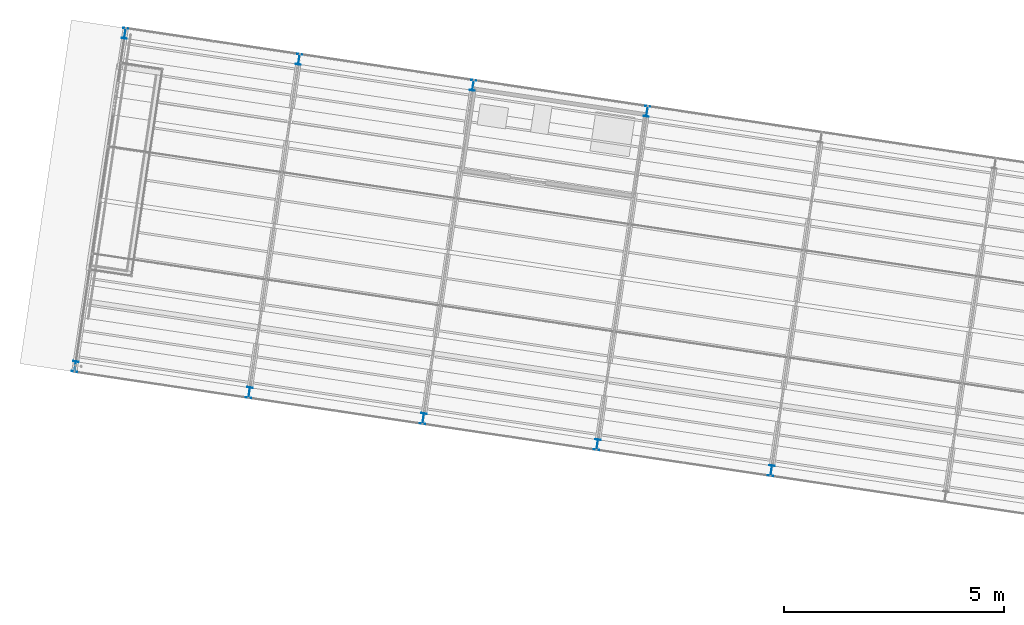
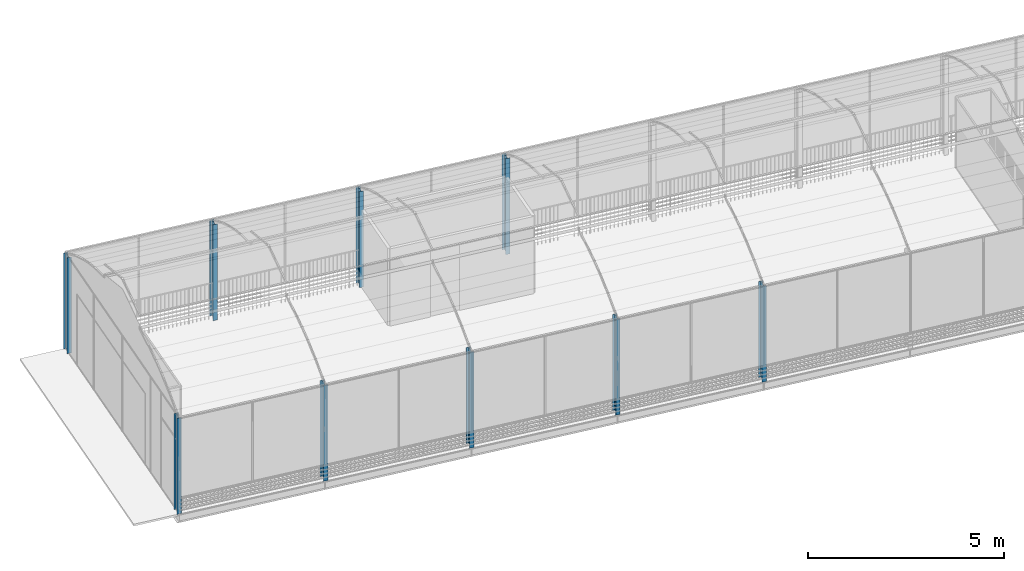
# One storey, part 1 of 34: 9 columns.
"""IFC4 building model written with IfcOpenShell, lengths in metres."""

from ifc_helpers import new_model, si_unit, direction, frame, origin_with_axes, place, context, subcontext, project, spatial, i_section, extrude, material, material_profile, profile_set, profile_usage, type_object, element, save


model = new_model("IFC4")

# Units and contexts
model_context = context("Model", 3, precision=1e-05, world=origin_with_axes(), true_north=direction((0.0, 1.0)))
body_context = subcontext(model_context, "Body", "Model", "MODEL_VIEW")
ifc_project = project(units=[si_unit("AREAUNIT", "SQUARE_METRE"), si_unit("VOLUMEUNIT", "CUBIC_METRE"), si_unit("LENGTHUNIT", "METRE")], contexts=[model_context])

# Site, building, storey
site_placement = place(None, origin_with_axes())
site = spatial("IfcSite", under=ifc_project, at=site_placement, Name="Lares · Rua das Mercês · artigo 4771")
building_placement = place(site_placement, frame((15.0, 9.7, 14.65), z_axis=(0.0, 0.0, 1.0), x_axis=(0.989015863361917, -0.147809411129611, 0.0)))
building = spatial("IfcBuilding", under=site, at=building_placement, Name="Casa Sobreposta")
storey_placement = place(building_placement, frame((0.0, 0.0, 3.24), z_axis=(0.0, 0.0, 1.0), x_axis=(1.0, 0.0, 0.0)))
storey = spatial("IfcBuildingStorey", under=building, at=storey_placement, Name="01 · Jardim de inverno", Elevation=17.89)

# Columns
ifc_material = material(Name="Aço pintado / Stahl lackiert", Category="steel")
ifc_material_profile = material_profile(ifc_material, i_section(OverallWidth=0.12, OverallDepth=0.24, WebThickness=0.0062, FlangeThickness=0.0098))
ifc_profile_set = profile_set([ifc_material_profile], Name="IPE240")
ifc_profile_usage_1 = profile_usage(ifc_profile_set)
column_type = type_object("IfcColumnType", Name="IPE240 / steel", PredefinedType="NOTDEFINED", material=ifc_profile_set)
column_1_placement = place(storey_placement, frame((0.0, -1.38, 0.0), z_axis=(0.0, 0.0, 1.0), x_axis=(1.0, 0.0, 0.0)))
element("IfcColumn", 1, at=column_1_placement, inside=storey, type_object=column_type, material=ifc_profile_usage_1, Name="Pilar estufa 1A · IPE240", context=body_context, shape_type="SweptSolid", body=[
    extrude(i_section(OverallWidth=0.12, OverallDepth=0.24, WebThickness=0.0062, FlangeThickness=0.0098), origin_with_axes(), (0.0, 0.0, 1.0), 2.98),
])
ifc_profile_usage_2 = profile_usage(ifc_profile_set)
column_2_placement = place(storey_placement, frame((0.0, 6.28, 0.0), z_axis=(0.0, 0.0, 1.0), x_axis=(1.0, 0.0, 0.0)))
element("IfcColumn", 2, at=column_2_placement, inside=storey, type_object=column_type, material=ifc_profile_usage_2, Name="Pilar estufa 1B · IPE240", context=body_context, shape_type="SweptSolid", body=[
    extrude(i_section(OverallWidth=0.12, OverallDepth=0.24, WebThickness=0.0062, FlangeThickness=0.0098), origin_with_axes(), (0.0, 0.0, 1.0), 2.98),
])
ifc_profile_usage_3 = profile_usage(ifc_profile_set)
column_3_placement = place(storey_placement, frame((4.0, -1.38, 0.0), z_axis=(0.0, 0.0, 1.0), x_axis=(1.0, 0.0, 0.0)))
element("IfcColumn", 3, at=column_3_placement, inside=storey, type_object=column_type, material=ifc_profile_usage_3, Name="Pilar estufa 2A · IPE240", context=body_context, shape_type="SweptSolid", body=[
    extrude(i_section(OverallWidth=0.12, OverallDepth=0.24, WebThickness=0.0062, FlangeThickness=0.0098), origin_with_axes(), (0.0, 0.0, 1.0), 2.98),
])
ifc_profile_usage_4 = profile_usage(ifc_profile_set)
column_4_placement = place(storey_placement, frame((4.0, 6.28, 0.0), z_axis=(0.0, 0.0, 1.0), x_axis=(1.0, 0.0, 0.0)))
element("IfcColumn", 4, at=column_4_placement, inside=storey, type_object=column_type, material=ifc_profile_usage_4, Name="Pilar estufa 2B · IPE240", context=body_context, shape_type="SweptSolid", body=[
    extrude(i_section(OverallWidth=0.12, OverallDepth=0.24, WebThickness=0.0062, FlangeThickness=0.0098), origin_with_axes(), (0.0, 0.0, 1.0), 2.98),
])
ifc_profile_usage_5 = profile_usage(ifc_profile_set)
column_5_placement = place(storey_placement, frame((8.0, -1.38, 0.0), z_axis=(0.0, 0.0, 1.0), x_axis=(1.0, 0.0, 0.0)))
element("IfcColumn", 5, at=column_5_placement, inside=storey, type_object=column_type, material=ifc_profile_usage_5, Name="Pilar estufa 3A · IPE240", context=body_context, shape_type="SweptSolid", body=[
    extrude(i_section(OverallWidth=0.12, OverallDepth=0.24, WebThickness=0.0062, FlangeThickness=0.0098), origin_with_axes(), (0.0, 0.0, 1.0), 2.98),
])
ifc_profile_usage_6 = profile_usage(ifc_profile_set)
column_6_placement = place(storey_placement, frame((8.0, 6.28, 0.0), z_axis=(0.0, 0.0, 1.0), x_axis=(1.0, 0.0, 0.0)))
element("IfcColumn", 6, at=column_6_placement, inside=storey, type_object=column_type, material=ifc_profile_usage_6, Name="Pilar estufa 3B · IPE240", context=body_context, shape_type="SweptSolid", body=[
    extrude(i_section(OverallWidth=0.12, OverallDepth=0.24, WebThickness=0.0062, FlangeThickness=0.0098), origin_with_axes(), (0.0, 0.0, 1.0), 2.98),
])
ifc_profile_usage_7 = profile_usage(ifc_profile_set)
column_7_placement = place(storey_placement, frame((12.0, -1.38, 0.0), z_axis=(0.0, 0.0, 1.0), x_axis=(1.0, 0.0, 0.0)))
element("IfcColumn", 7, at=column_7_placement, inside=storey, type_object=column_type, material=ifc_profile_usage_7, Name="Pilar estufa 4A · IPE240", context=body_context, shape_type="SweptSolid", body=[
    extrude(i_section(OverallWidth=0.12, OverallDepth=0.24, WebThickness=0.0062, FlangeThickness=0.0098), origin_with_axes(), (0.0, 0.0, 1.0), 2.98),
])
ifc_profile_usage_8 = profile_usage(ifc_profile_set)
column_8_placement = place(storey_placement, frame((12.0, 6.28, 0.0), z_axis=(0.0, 0.0, 1.0), x_axis=(1.0, 0.0, 0.0)))
element("IfcColumn", 8, at=column_8_placement, inside=storey, type_object=column_type, material=ifc_profile_usage_8, Name="Pilar estufa 4B · IPE240", context=body_context, shape_type="SweptSolid", body=[
    extrude(i_section(OverallWidth=0.12, OverallDepth=0.24, WebThickness=0.0062, FlangeThickness=0.0098), origin_with_axes(), (0.0, 0.0, 1.0), 2.98),
])
ifc_profile_usage_9 = profile_usage(ifc_profile_set)
column_9_placement = place(storey_placement, frame((16.0, -1.38, 0.0), z_axis=(0.0, 0.0, 1.0), x_axis=(1.0, 0.0, 0.0)))
element("IfcColumn", 9, at=column_9_placement, inside=storey, type_object=column_type, material=ifc_profile_usage_9, Name="Pilar estufa 5A · IPE240", context=body_context, shape_type="SweptSolid", body=[
    extrude(i_section(OverallWidth=0.12, OverallDepth=0.24, WebThickness=0.0062, FlangeThickness=0.0098), origin_with_axes(), (0.0, 0.0, 1.0), 2.98),
])

save(model, "model.ifc")
